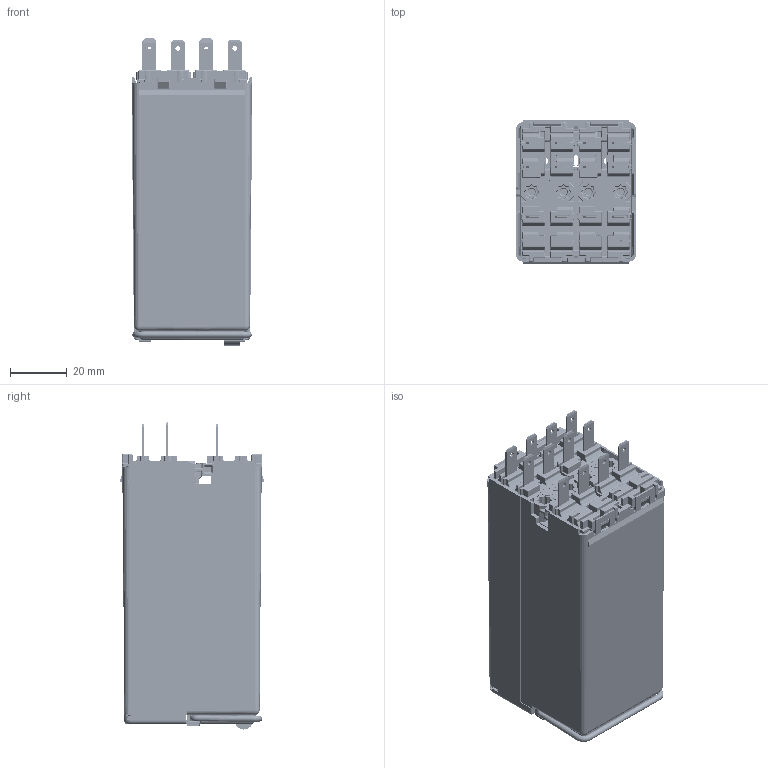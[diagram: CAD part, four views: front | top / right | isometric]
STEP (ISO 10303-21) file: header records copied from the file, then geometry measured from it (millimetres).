
FILE_DESCRIPTION (( 'STEP AP203' ), '1' );
FILE_NAME ('RBF4.STEP', '2014-07-10T05:33:39', ( '' ), ( '' ), 'SwSTEP 2.0', 'SolidWorks 2013', '' );
FILE_SCHEMA (( 'CONFIG_CONTROL_DESIGN' ));
Length unit declared in the file: millimetre
Products named in the file (8): RBF4; 598509008_G ZOCALO PLUS_Zocalo op; 510585441 LAMINA PORTACONTACTOS FIJO CONEXION PCB_1; ZOCALO_F_RJ4XR4_OP_PART2_1; 598813699 ZOCALO F4-F41 OP; 466342235_D CUBIERTA F LARGA OP; 569569437 TAPA CUBIERTA TDF OP RevG_TL; 482503141 EMPUÑADURA_F_PLUS_EMPU¥ADURA F PLUS
Assembly tree (13 placements, depth 4):
  RBF4
    598813699 ZOCALO F4-F41 OP
      ZOCALO_F_RJ4XR4_OP_PART2_1  x2
        598509008_G ZOCALO PLUS_Zocalo op
        510585441 LAMINA PORTACONTACTOS FIJO CONEXION PCB_1
    466342235_D CUBIERTA F LARGA OP
    569569437 TAPA CUBIERTA TDF OP RevG_TL
    482503141 EMPUÑADURA_F_PLUS_EMPU¥ADURA F PLUS
Bounding box: 42.5 x 50.4 x 108.02 mm (x, y, z)
Volume: 23868.9 mm3; surface area: 67931.5 mm2
Topology: 15 solids, 25 shells, 8690 faces, 22056 edges, 12813 vertices
Faces by surface type: cylinder 3236, plane 2907, bspline 2391, cone 100, sphere 32, torus 24
Entity records: 160373 total; most frequent: CARTESIAN_POINT 60988, ORIENTED_EDGE 22974, DIRECTION 17051, EDGE_CURVE 11490, VERTEX_POINT 6857, VECTOR 5825, LINE 5825, AXIS2_PLACEMENT_3D 5613
